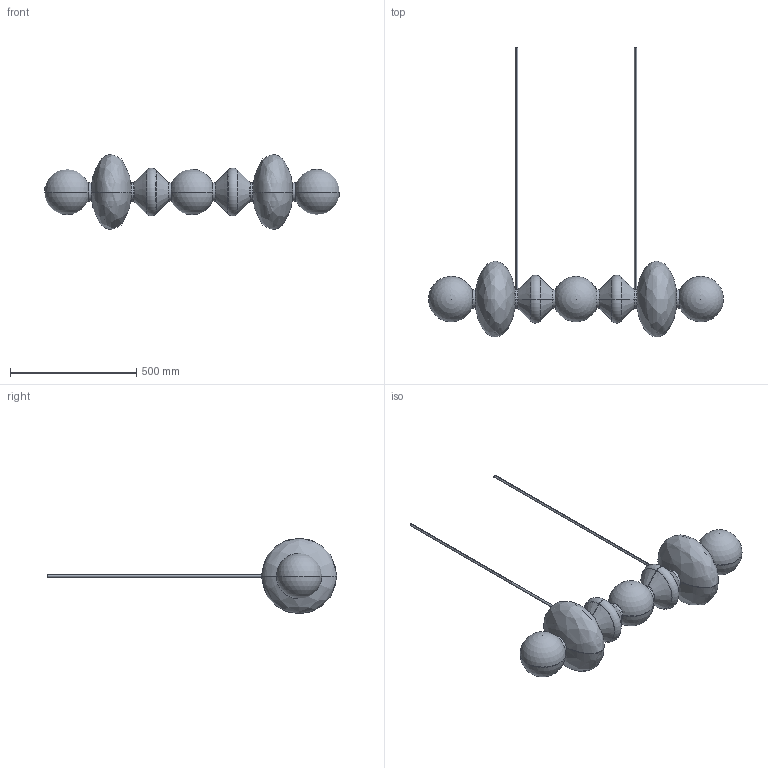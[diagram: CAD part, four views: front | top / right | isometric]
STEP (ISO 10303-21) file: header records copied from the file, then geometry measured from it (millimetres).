
FILE_DESCRIPTION (( 'STEP AP214' ), '1' );
FILE_NAME ('PAPI_Colgante.STEP', '2023-10-17T09:50:04', ( '' ), ( '' ), 'SwSTEP 2.0', 'SolidWorks 2018', '' );
FILE_SCHEMA (( 'AUTOMOTIVE_DESIGN' ));
Length unit declared in the file: millimetre
Products named in the file (2): PAPI_Colgante
Bounding box: 1170.95 x 1149.96 x 300 mm (x, y, z)
Volume: 3123881.8 mm3; surface area: 1918069.6 mm2
Topology: 19 solids, 19 shells, 150 faces, 338 edges, 222 vertices
Faces by surface type: cylinder 54, plane 40, bspline 20, cone 16, sphere 12, torus 8
Entity records: 22141 total; most frequent: CARTESIAN_POINT 18664, DIRECTION 734, ORIENTED_EDGE 612, AXIS2_PLACEMENT_3D 324, EDGE_CURVE 306, VERTEX_POINT 200, CIRCLE 192, EDGE_LOOP 178
